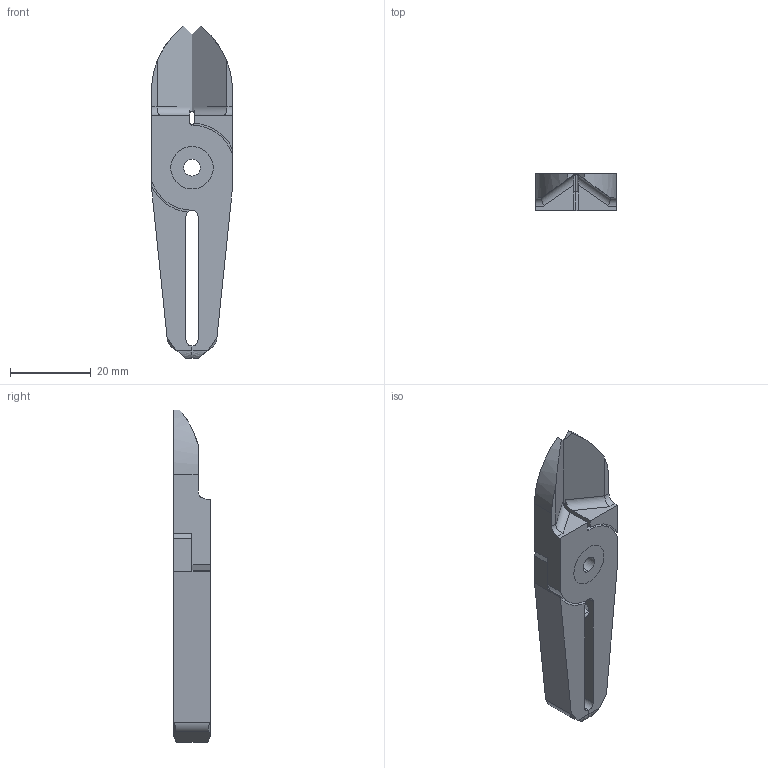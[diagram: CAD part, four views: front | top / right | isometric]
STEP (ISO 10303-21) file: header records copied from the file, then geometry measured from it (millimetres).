
FILE_DESCRIPTION (( 'STEP AP214' ), '1' );
FILE_NAME ('NT10AJB.STEP', '2019-11-28T08:58:53', ( '微软用户' ), ( '微软中国' ), 'SwSTEP 2.0', 'SolidWorks 2016', '' );
FILE_SCHEMA (( 'AUTOMOTIVE_DESIGN' ));
Length unit declared in the file: millimetre
Products named in the file (4): BR2; BR1; BS; NT10AJB
Assembly tree (3 placements, depth 2):
  NT10AJB
    BS
    BR1
    BR2
Bounding box: 20 x 9 x 82 mm (x, y, z)
Volume: 8830.8 mm3; surface area: 6523.7 mm2
Topology: 3 solids, 3 shells, 94 faces, 246 edges, 156 vertices
Faces by surface type: plane 38, cylinder 28, cone 16, bspline 12
Entity records: 3092 total; most frequent: CARTESIAN_POINT 708, ORIENTED_EDGE 484, DIRECTION 454, EDGE_CURVE 242, VERTEX_POINT 156, AXIS2_PLACEMENT_3D 154, VECTOR 146, LINE 146
